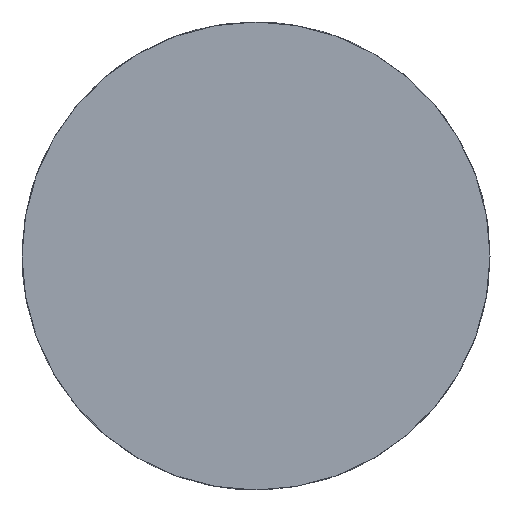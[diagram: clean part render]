
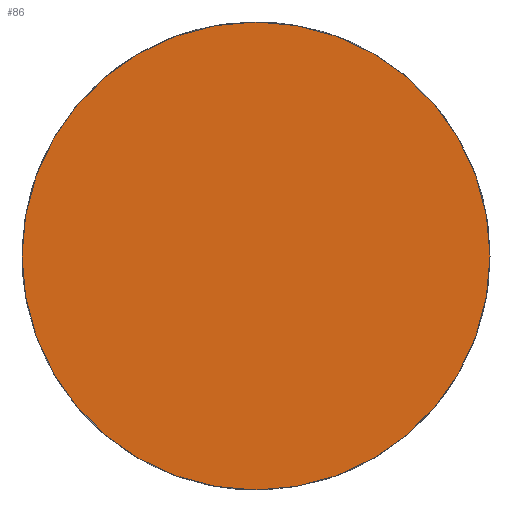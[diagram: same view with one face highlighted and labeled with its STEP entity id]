
A CAD part, left-side view. The second image highlights one B-rep face of the part: STEP entity #86.
In plain terms, the highlighted planar face has unit normal (-1, 0, 0).
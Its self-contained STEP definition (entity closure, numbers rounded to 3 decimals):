
#42=PLANE('',#82);
#47=ORIENTED_EDGE('',*,*,#52,.T.);
#49=CIRCLE('',#80,7.5);
#50=VERTEX_POINT('',#73);
#52=EDGE_CURVE('',#50,#50,#49,.T.);
#56=EDGE_LOOP('',(#47));
#60=FACE_BOUND('',#56,.T.);
#64=DIRECTION('',(-1.,0.,0.));
#65=DIRECTION('',(0.,0.,-7.5));
#68=DIRECTION('',(-1.,0.,0.));
#69=DIRECTION('',(0.,1.,0.));
#73=CARTESIAN_POINT('',(-56.48,0.,7.5));
#74=CARTESIAN_POINT('',(-56.48,0.,0.));
#77=CARTESIAN_POINT('',(-56.48,0.,7.5));
#80=AXIS2_PLACEMENT_3D('',#74,#64,#65);
#82=AXIS2_PLACEMENT_3D('',#77,#68,#69);
#86=ADVANCED_FACE('',(#60),#42,.T.);
